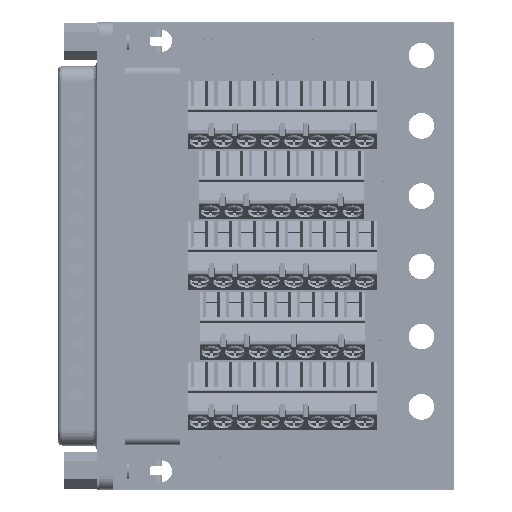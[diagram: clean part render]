
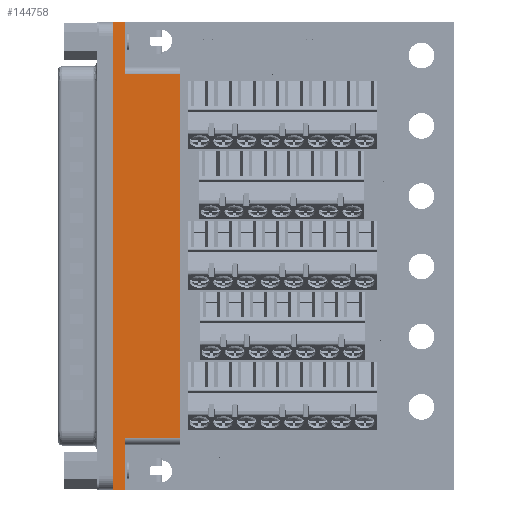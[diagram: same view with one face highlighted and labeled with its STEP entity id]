
A CAD part, top view. The second image highlights one B-rep face of the part: STEP entity #144758.
In plain terms, the highlighted planar face has unit normal (0, 0, 1) as drawn and (0, 1, 0) by its records, which use the part's own axes.
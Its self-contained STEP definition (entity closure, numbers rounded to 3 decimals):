
#2144 = VECTOR ( 'NONE', #530955, 1000. ) ;
#7210 = VERTEX_POINT ( 'NONE', #170925 ) ;
#7873 = VECTOR ( 'NONE', #227549, 1000. ) ;
#8573 = EDGE_CURVE ( 'NONE', #109848, #143816, #610973, .T. ) ;
#8616 = ORIENTED_EDGE ( 'NONE', *, *, #226605, .T. ) ;
#11055 = DIRECTION ( 'NONE',  ( 0., 1., 0. ) ) ;
#15824 = DIRECTION ( 'NONE',  ( 1., 0., 0. ) ) ;
#24770 = ORIENTED_EDGE ( 'NONE', *, *, #125989, .T. ) ;
#48944 = VERTEX_POINT ( 'NONE', #566958 ) ;
#73997 = LINE ( 'NONE', #300422, #81628 ) ;
#81628 = VECTOR ( 'NONE', #15824, 1000. ) ;
#82915 = ORIENTED_EDGE ( 'NONE', *, *, #325302, .F. ) ;
#94473 = DIRECTION ( 'NONE',  ( 1., 0., 0. ) ) ;
#109848 = VERTEX_POINT ( 'NONE', #604589 ) ;
#109856 = DIRECTION ( 'NONE',  ( 0., 0., 1. ) ) ;
#113194 = VERTEX_POINT ( 'NONE', #413937 ) ;
#125989 = EDGE_CURVE ( 'NONE', #571320, #547743, #562894, .T. ) ;
#139434 = ORIENTED_EDGE ( 'NONE', *, *, #161729, .F. ) ;
#143816 = VERTEX_POINT ( 'NONE', #174957 ) ;
#144758 = ADVANCED_FACE ( 'NONE', ( #598275 ), #576018, .T. ) ;
#153564 = CARTESIAN_POINT ( 'NONE',  ( 0., 4.1, 12. ) ) ;
#153985 = ORIENTED_EDGE ( 'NONE', *, *, #233082, .F. ) ;
#161729 = EDGE_CURVE ( 'NONE', #571320, #7210, #496303, .T. ) ;
#170925 = CARTESIAN_POINT ( 'NONE',  ( -27., 4.1, 12. ) ) ;
#171254 = DIRECTION ( 'NONE',  ( 0., 0., -1. ) ) ;
#174957 = CARTESIAN_POINT ( 'NONE',  ( -27., 4.1, 3.85 ) ) ;
#214096 = CARTESIAN_POINT ( 'NONE',  ( 27., 4.1, 3.85 ) ) ;
#217354 = AXIS2_PLACEMENT_3D ( 'NONE', #390390, #11055, #109856 ) ;
#217534 = LINE ( 'NONE', #214096, #579073 ) ;
#226605 = EDGE_CURVE ( 'NONE', #547743, #516955, #217534, .T. ) ;
#227549 = DIRECTION ( 'NONE',  ( 0., 0., 1. ) ) ;
#233082 = EDGE_CURVE ( 'NONE', #48944, #113194, #73997, .T. ) ;
#258909 = LINE ( 'NONE', #602850, #7873 ) ;
#262795 = CARTESIAN_POINT ( 'NONE',  ( 27., 4.1, 12. ) ) ;
#267920 = CARTESIAN_POINT ( 'NONE',  ( 34.66, 4.1, 3.85 ) ) ;
#290208 = CARTESIAN_POINT ( 'NONE',  ( 27., 4.1, 3.85 ) ) ;
#291805 = EDGE_CURVE ( 'NONE', #113194, #516955, #258909, .T. ) ;
#298158 = CARTESIAN_POINT ( 'NONE',  ( 27., 4.1, 2. ) ) ;
#300422 = CARTESIAN_POINT ( 'NONE',  ( 0., 4.1, 2. ) ) ;
#303755 = ORIENTED_EDGE ( 'NONE', *, *, #8573, .T. ) ;
#311011 = DIRECTION ( 'NONE',  ( 1., 0., 0. ) ) ;
#325302 = EDGE_CURVE ( 'NONE', #109848, #48944, #419554, .T. ) ;
#329585 = DIRECTION ( 'NONE',  ( 0., 0., 1. ) ) ;
#337453 = DIRECTION ( 'NONE',  ( 0., 0., -1. ) ) ;
#338573 = VECTOR ( 'NONE', #171254, 1000. ) ;
#373005 = CARTESIAN_POINT ( 'NONE',  ( 27., 4.1, 3.85 ) ) ;
#388946 = VECTOR ( 'NONE', #329585, 1000. ) ;
#390390 = CARTESIAN_POINT ( 'NONE',  ( 27., 4.1, 2. ) ) ;
#393038 = ORIENTED_EDGE ( 'NONE', *, *, #441052, .T. ) ;
#403778 = LINE ( 'NONE', #469741, #388946 ) ;
#413937 = CARTESIAN_POINT ( 'NONE',  ( 34.66, 4.1, 2. ) ) ;
#419554 = LINE ( 'NONE', #594109, #338573 ) ;
#441052 = EDGE_CURVE ( 'NONE', #143816, #7210, #403778, .T. ) ;
#469741 = CARTESIAN_POINT ( 'NONE',  ( -27., 4.1, 2. ) ) ;
#474729 = VECTOR ( 'NONE', #337453, 1000. ) ;
#479391 = EDGE_LOOP ( 'NONE', ( #8616, #545352, #153985, #82915, #303755, #393038, #139434, #24770 ) ) ;
#496303 = LINE ( 'NONE', #153564, #2144 ) ;
#516955 = VERTEX_POINT ( 'NONE', #267920 ) ;
#530955 = DIRECTION ( 'NONE',  ( -1., 0., 0. ) ) ;
#545352 = ORIENTED_EDGE ( 'NONE', *, *, #291805, .F. ) ;
#547743 = VERTEX_POINT ( 'NONE', #290208 ) ;
#562894 = LINE ( 'NONE', #298158, #474729 ) ;
#566958 = CARTESIAN_POINT ( 'NONE',  ( -34.66, 4.1, 2. ) ) ;
#571320 = VERTEX_POINT ( 'NONE', #262795 ) ;
#576018 = PLANE ( 'NONE',  #217354 ) ;
#579073 = VECTOR ( 'NONE', #311011, 1000. ) ;
#594109 = CARTESIAN_POINT ( 'NONE',  ( -34.66, 4.1, -2.3 ) ) ;
#596214 = VECTOR ( 'NONE', #94473, 1000. ) ;
#598275 = FACE_OUTER_BOUND ( 'NONE', #479391, .T. ) ;
#602850 = CARTESIAN_POINT ( 'NONE',  ( 34.66, 4.1, -2.3 ) ) ;
#604589 = CARTESIAN_POINT ( 'NONE',  ( -34.66, 4.1, 3.85 ) ) ;
#610973 = LINE ( 'NONE', #373005, #596214 ) ;
